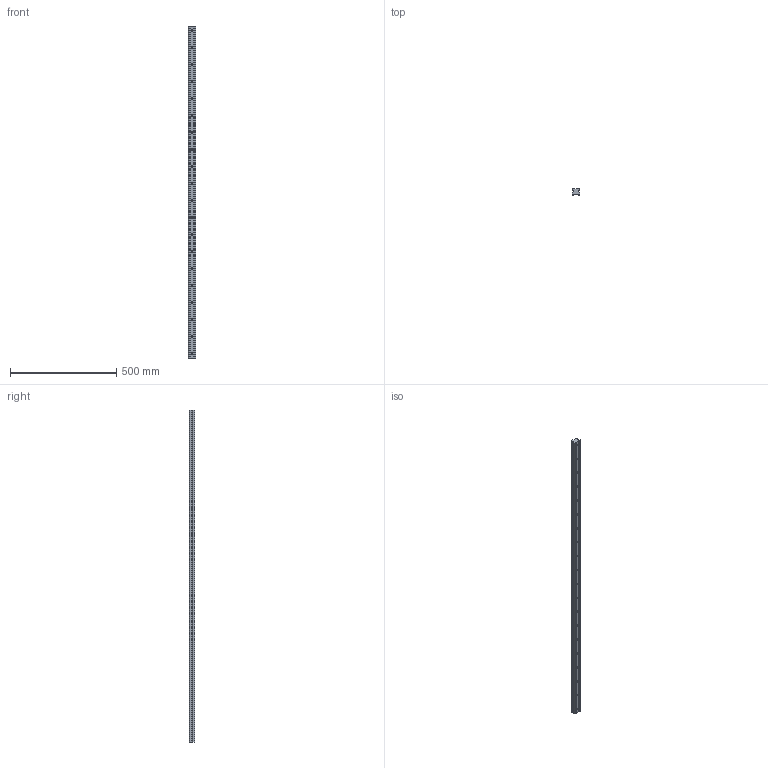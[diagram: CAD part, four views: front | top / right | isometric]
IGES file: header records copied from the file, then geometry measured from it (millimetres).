
Start section: SolidWorks IGES file using analytic representation for surfaces
Global section: file name: C:\Users\IanO\Desktop\Temp File\GENERAL\L1016_v2\L1016.RF35_v2\L1016.RF35_v2_20190612_IGES\L1016.RF35-1560.igs; native system: SolidWorks 2017; preprocessor: SolidWorks 2017; author: IanO; date: 190613.172803; units: millimetre
Bounding box: 34 x 26 x 1560 mm (x, y, z)
Surface area: 204067.6 mm2 (no closed solid volume)
Topology: 0 solids, 0 shells, 166 faces, 2568 edges, 2528 vertices
Faces by surface type: revolution 124, bspline 42
